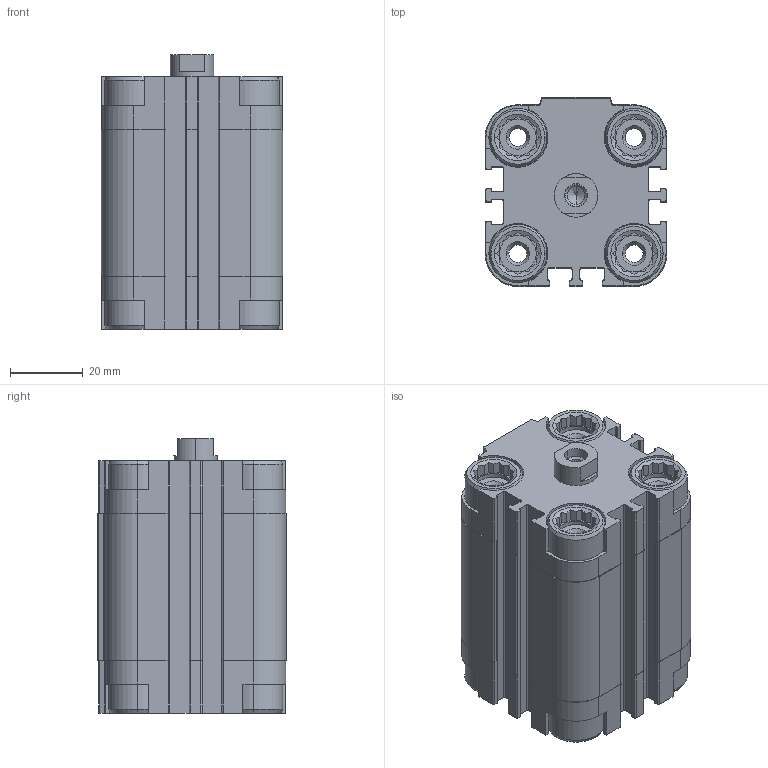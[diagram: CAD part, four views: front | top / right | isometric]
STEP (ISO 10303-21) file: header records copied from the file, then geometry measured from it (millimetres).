
FILE_DESCRIPTION (( 'STEP AP203' ), '1' );
FILE_NAME ('CDVU32-25F.STEP', '2020-03-30T14:57:34', ( '' ), ( '' ), 'SwSTEP 2.0', 'SolidWorks 2019', '' );
FILE_SCHEMA (( 'CONFIG_CONTROL_DESIGN' ));
Length unit declared in the file: millimetre
Products named in the file (1): CDVU32-25F
Bounding box: 50 x 52 x 75.5 mm (x, y, z)
Volume: 124660.6 mm3; surface area: 43006.8 mm2
Topology: 2 solids, 2 shells, 709 faces, 1894 edges, 1223 vertices
Faces by surface type: plane 417, cylinder 230, cone 62
Entity records: 22229 total; most frequent: CARTESIAN_POINT 4397, ORIENTED_EDGE 3776, DIRECTION 3636, EDGE_CURVE 1888, AXIS2_PLACEMENT_3D 1230, VERTEX_POINT 1223, LINE 1176, VECTOR 1176
